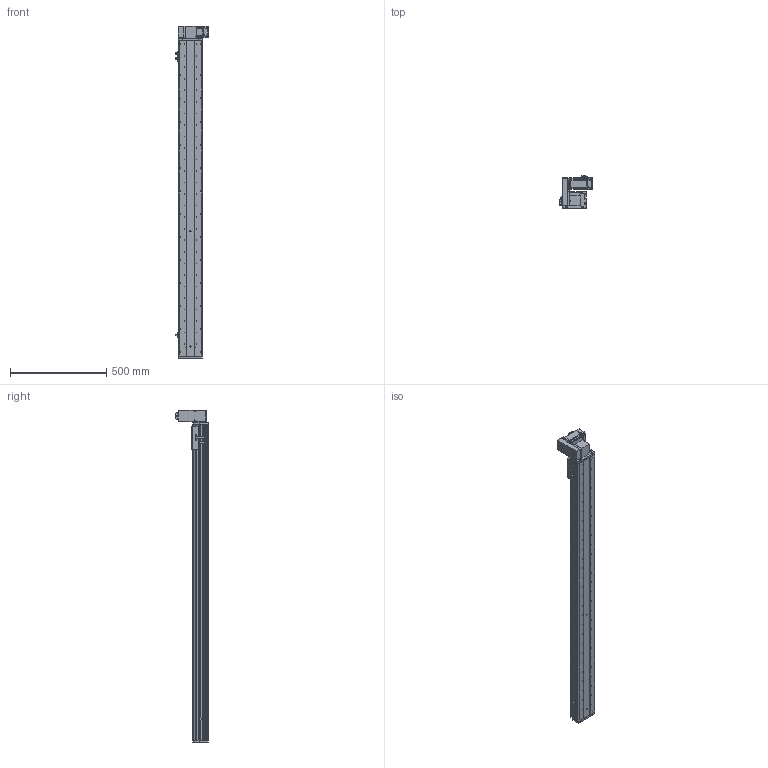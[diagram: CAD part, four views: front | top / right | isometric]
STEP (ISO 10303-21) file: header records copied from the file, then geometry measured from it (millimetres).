
FILE_DESCRIPTION (( 'STEP AP214' ), '1' );
FILE_NAME ('KSD125B-S1450-MRU-CM.STEP', '2017-10-21T07:51:24', ( '微软用户' ), ( '微软中国' ), 'SwSTEP 2.0', 'SolidWorks 2014', '' );
FILE_SCHEMA (( 'AUTOMOTIVE_DESIGN' ));
Length unit declared in the file: millimetre
Products named in the file (17): 覜茼え68遵圉猾敕; U倰嫖萇假蚾璃; U倰嫖萇EEㄜSX672; KSD125模组同步带-防撞垫1; 100宽马达安装板同步带右; 前端板-125宽模组同步带; 125模组同步带-尾端板1; KSD125模组同步带-滑动座1; KSD125B-S1450-MRU-CM; 悵誘欶奻狟殏; HTPA30S3M150_A_H6_a佪裝蚚; HTPA30S3M150_A_H6_a萇儂蚚; 100宽马达安装板连板上下折丝杆同步带; KSD125模组1450行程同步带-防尘盖; 125模组1450行程同步带-底板; MHMD042G1CA_2_03; KSD125模组同步带-防撞垫2
Assembly tree (20 placements, depth 2):
  KSD125B-S1450-MRU-CM
    KSD125模组同步带-滑动座1
    125模组同步带-尾端板1
    前端板-125宽模组同步带
    100宽马达安装板同步带右
    KSD125模组同步带-防撞垫1
    U倰嫖萇EEㄜSX672  x3
    U倰嫖萇假蚾璃  x3
    覜茼え68遵圉猾敕
    KSD125模组同步带-防撞垫2
    MHMD042G1CA_2_03
    125模组1450行程同步带-底板
    KSD125模组1450行程同步带-防尘盖
    100宽马达安装板连板上下折丝杆同步带
    HTPA30S3M150_A_H6_a萇儂蚚
    HTPA30S3M150_A_H6_a佪裝蚚
    悵誘欶奻狟殏
Bounding box: 168.7 x 170.5 x 1727 mm (x, y, z)
Volume: 5126424.8 mm3; surface area: 1699488.9 mm2
Topology: 19 solids, 22 shells, 2383 faces, 6913 edges, 4570 vertices
Faces by surface type: cylinder 1520, plane 736, cone 105, bspline 22
Entity records: 85343 total; most frequent: CARTESIAN_POINT 16791, DIRECTION 13254, ORIENTED_EDGE 12346, EDGE_CURVE 6251, AXIS2_PLACEMENT_3D 5145, VERTEX_POINT 4162, CIRCLE 2980, LINE 2964
